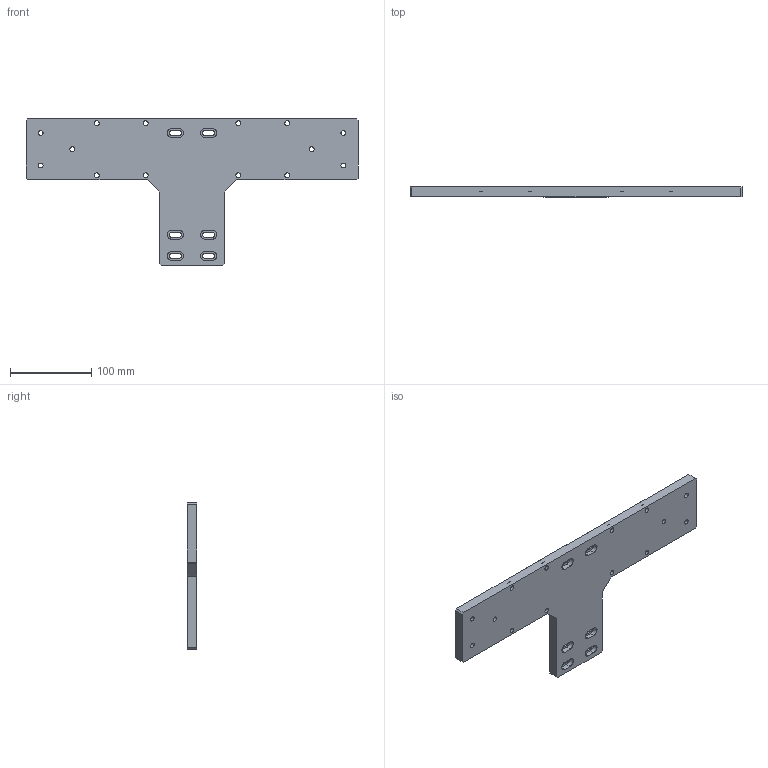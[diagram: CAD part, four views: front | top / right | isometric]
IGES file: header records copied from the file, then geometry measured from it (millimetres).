
Start section:  PTC IGES file: n80-n80l-st.igs
Global section: file name: n80-n80l-st.igs; native system: Pro/ENGINEER by Parametric Technology Corporation; preprocessor: 2008230; author: Owner; organization: Unknown; date: 20121212.091458; units: millimetre
Bounding box: 408 x 12 x 180 mm (x, y, z)
Surface area: 98168.6 mm2 (no closed solid volume)
Topology: 0 solids, 0 shells, 142 faces, 752 edges, 748 vertices
Faces by surface type: revolution 80, bspline 62
